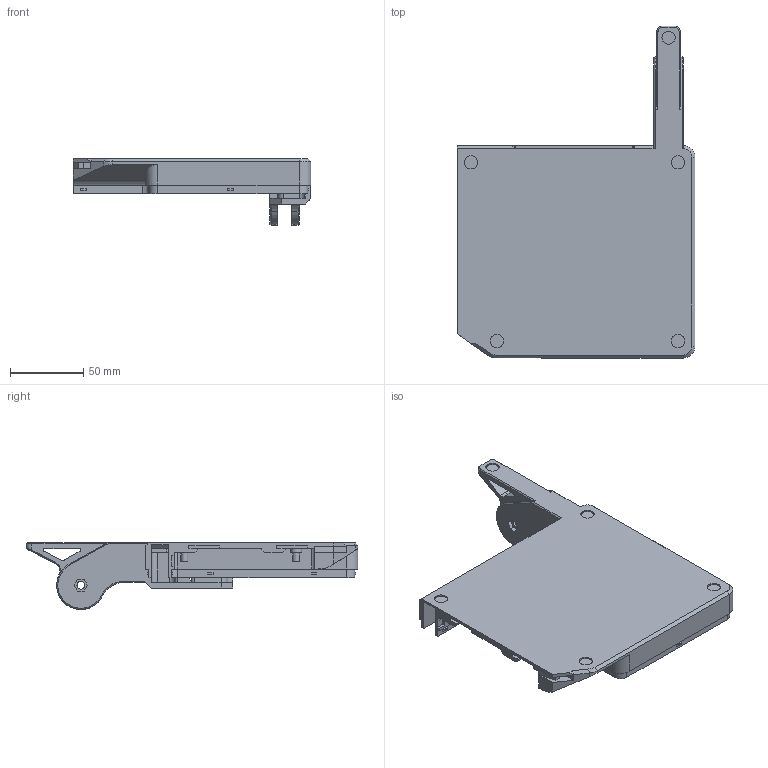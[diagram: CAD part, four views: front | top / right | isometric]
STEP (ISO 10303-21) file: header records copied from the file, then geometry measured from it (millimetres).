
FILE_DESCRIPTION(/* description */ ('STEP AP242','CAx-IF Rec.Pracs.---Representation and Presentation of Product Manufacturing Information (PMI)---4.0---2014-10-13','CAx-IF Rec.Pracs.---3D Tessellated Geometry---0.4---2014-09-14','2;1'),/* implementation_level */ '2;1');
FILE_NAME(/* name */ '687e6c9ff344454910d485ba',/* time_stamp */ '2025-07-21T16:36:48Z',/* author */ (''),/* organization */ (''),/* preprocessor_version */ 'ST-DEVELOPER v20',/* originating_system */ 'ONSHAPE BY PTC INC, 1.201',/* authorisation */ ' ');
FILE_SCHEMA (('AP242_MANAGED_MODEL_BASED_3D_ENGINEERING_MIM_LF { 1 0 10303 442 1 1 4 }'));
Length unit declared in the file: metre
Products named in the file (1): Left Base
Bounding box: 162.07 x 226.19 x 45.45 mm (x, y, z)
Volume: 178639.8 mm3; surface area: 89552.8 mm2
Topology: 1 solids, 1 shells, 453 faces, 1269 edges, 831 vertices
Faces by surface type: plane 323, cylinder 110, cone 18, bspline 2
Full cylindrical faces by diameter (mm): 1.4 x2, 4.8 x2, 5.3 x2, 7 x1, 7.5 x1, 9 x5, 9.75 x1, 18 x1
Entity records: 14465 total; most frequent: CARTESIAN_POINT 2624, ORIENTED_EDGE 2500, DIRECTION 2389, EDGE_CURVE 1250, LINE 985, VECTOR 985, VERTEX_POINT 827, AXIS2_PLACEMENT_3D 702
